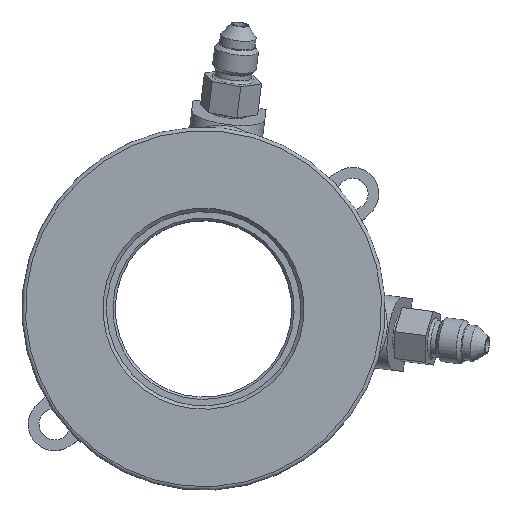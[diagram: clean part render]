
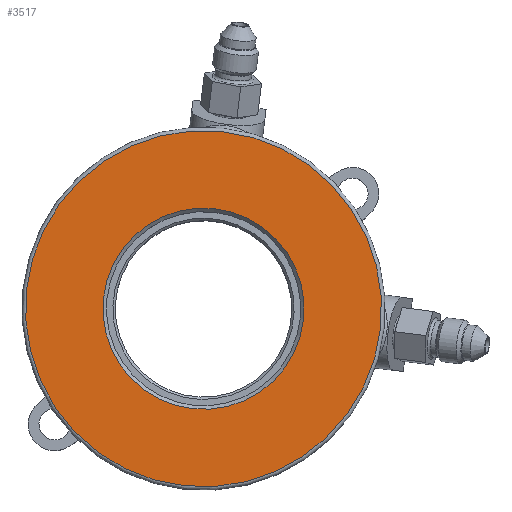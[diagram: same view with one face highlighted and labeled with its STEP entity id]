
A CAD part, top view. The second image highlights one B-rep face of the part: STEP entity #3517.
In plain terms, the highlighted planar face has unit normal (0, 0, 1).
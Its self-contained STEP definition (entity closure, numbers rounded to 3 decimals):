
#991=ORIENTED_EDGE('',*,*,#1796,.F.);
#992=ORIENTED_EDGE('',*,*,#1798,.T.);
#1796=EDGE_CURVE('',#2243,#2243,#2580,.T.);
#1798=EDGE_CURVE('',#2245,#2245,#2582,.F.);
#2243=VERTEX_POINT('',#12975);
#2245=VERTEX_POINT('',#12981);
#2580=CIRCLE('',#4884,21.717);
#2582=CIRCLE('',#4888,38.443);
#2817=EDGE_LOOP('',(#991));
#2818=EDGE_LOOP('',(#992));
#3143=FACE_BOUND('',#2817,.T.);
#3144=FACE_BOUND('',#2818,.T.);
#3386=PLANE('',#4887);
#3517=ADVANCED_FACE('',(#3143,#3144),#3386,.T.);
#4884=AXIS2_PLACEMENT_3D('',#12974,#5584,#5585);
#4887=AXIS2_PLACEMENT_3D('',#12979,#5590,#5591);
#4888=AXIS2_PLACEMENT_3D('',#12980,#5592,#5593);
#5584=DIRECTION('',(0.,0.,1.));
#5585=DIRECTION('',(0.589,0.808,0.));
#5590=DIRECTION('',(0.,0.,1.));
#5591=DIRECTION('',(0.589,0.808,0.));
#5592=DIRECTION('',(0.,0.,-1.));
#5593=DIRECTION('',(-0.589,-0.808,0.));
#12974=CARTESIAN_POINT('',(0.,0.,155.588));
#12975=CARTESIAN_POINT('',(12.791,17.551,155.588));
#12979=CARTESIAN_POINT('',(8.528,-54.354,155.588));
#12980=CARTESIAN_POINT('',(0.,0.,155.588));
#12981=CARTESIAN_POINT('',(-22.642,-31.068,155.588));
